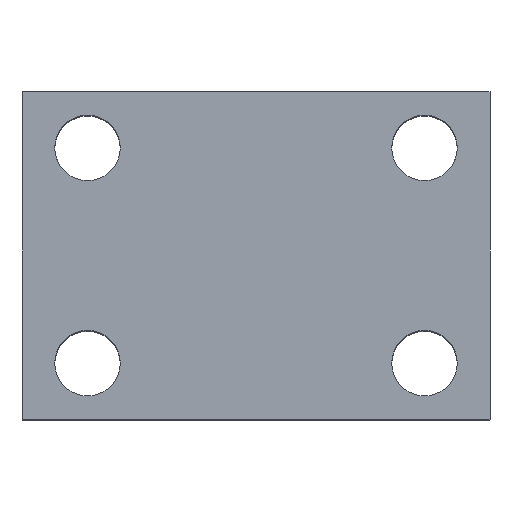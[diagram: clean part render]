
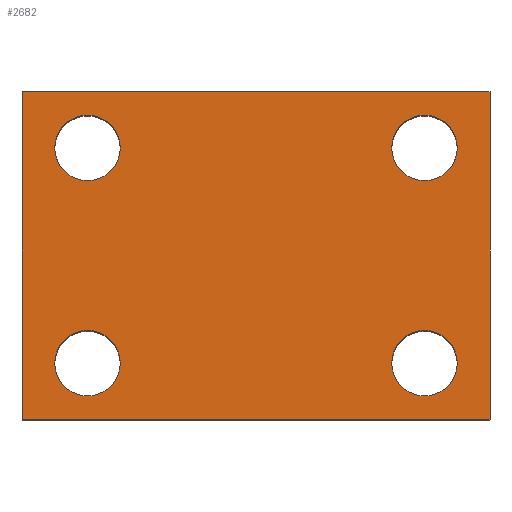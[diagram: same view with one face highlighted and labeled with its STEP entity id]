
A CAD part, top view. The second image highlights one B-rep face of the part: STEP entity #2682.
In plain terms, the highlighted planar face has unit normal (0, 0, 1).
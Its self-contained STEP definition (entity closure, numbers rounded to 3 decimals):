
#160 = DIRECTION ( 'NONE',  ( -1., 0., 0. ) ) ;
#172 = CARTESIAN_POINT ( 'NONE',  ( -25., 35., 40. ) ) ;
#194 = DIRECTION ( 'NONE',  ( 0., -1., 0. ) ) ;
#248 = CIRCLE ( 'NONE', #14697, 3.5 ) ;
#256 = CARTESIAN_POINT ( 'NONE',  ( -18., 29., 40. ) ) ;
#310 = EDGE_CURVE ( 'NONE', #5971, #6671, #14601, .T. ) ;
#576 = VERTEX_POINT ( 'NONE', #13265 ) ;
#689 = DIRECTION ( 'NONE',  ( 0., 0., -1. ) ) ;
#774 = VERTEX_POINT ( 'NONE', #4206 ) ;
#867 = ORIENTED_EDGE ( 'NONE', *, *, #14074, .T. ) ;
#970 = EDGE_LOOP ( 'NONE', ( #7733, #7612 ) ) ;
#1034 = CIRCLE ( 'NONE', #5547, 3.5 ) ;
#1449 = EDGE_CURVE ( 'NONE', #5087, #8714, #248, .T. ) ;
#1507 = VERTEX_POINT ( 'NONE', #1746 ) ;
#1658 = DIRECTION ( 'NONE',  ( 0., 0., -1. ) ) ;
#1746 = CARTESIAN_POINT ( 'NONE',  ( -14.5, 6., 40. ) ) ;
#1844 = AXIS2_PLACEMENT_3D ( 'NONE', #10779, #2836, #12071 ) ;
#2193 = CARTESIAN_POINT ( 'NONE',  ( -18., 29., 40. ) ) ;
#2311 = ORIENTED_EDGE ( 'NONE', *, *, #2619, .F. ) ;
#2519 = CARTESIAN_POINT ( 'NONE',  ( -25., 35., 40. ) ) ;
#2619 = EDGE_CURVE ( 'NONE', #14700, #774, #13308, .T. ) ;
#2682 = ADVANCED_FACE ( 'NONE', ( #15953, #12086, #5668, #8597, #5228 ), #13662, .F. ) ;
#2692 = AXIS2_PLACEMENT_3D ( 'NONE', #15396, #7606, #16682 ) ;
#2836 = DIRECTION ( 'NONE',  ( 0., 0., -1. ) ) ;
#2847 = CARTESIAN_POINT ( 'NONE',  ( -18., 6., 40. ) ) ;
#2997 = AXIS2_PLACEMENT_3D ( 'NONE', #9739, #1658, #11046 ) ;
#3123 = DIRECTION ( 'NONE',  ( 0., -1., 0. ) ) ;
#3655 = DIRECTION ( 'NONE',  ( -1., 0., 0. ) ) ;
#3772 = CARTESIAN_POINT ( 'NONE',  ( 21.5, 29., 40. ) ) ;
#3785 = EDGE_LOOP ( 'NONE', ( #10661, #867 ) ) ;
#3864 = DIRECTION ( 'NONE',  ( 0., 0., -1. ) ) ;
#4206 = CARTESIAN_POINT ( 'NONE',  ( 25., 0., 40. ) ) ;
#4280 = DIRECTION ( 'NONE',  ( -1., 0., 0. ) ) ;
#4327 = VECTOR ( 'NONE', #5447, 1000. ) ;
#4620 = CARTESIAN_POINT ( 'NONE',  ( -25., 35., 40. ) ) ;
#4671 = EDGE_CURVE ( 'NONE', #1507, #13523, #5862, .T. ) ;
#4904 = ORIENTED_EDGE ( 'NONE', *, *, #4671, .T. ) ;
#5017 = AXIS2_PLACEMENT_3D ( 'NONE', #4620, #13724, #6004 ) ;
#5068 = AXIS2_PLACEMENT_3D ( 'NONE', #2193, #11514, #3655 ) ;
#5087 = VERTEX_POINT ( 'NONE', #5877 ) ;
#5169 = CIRCLE ( 'NONE', #8576, 3.5 ) ;
#5228 = FACE_OUTER_BOUND ( 'NONE', #10610, .T. ) ;
#5341 = EDGE_CURVE ( 'NONE', #15858, #8186, #7419, .T. ) ;
#5447 = DIRECTION ( 'NONE',  ( 1., 0., 0. ) ) ;
#5547 = AXIS2_PLACEMENT_3D ( 'NONE', #2847, #12078, #4280 ) ;
#5668 = FACE_BOUND ( 'NONE', #970, .T. ) ;
#5729 = CARTESIAN_POINT ( 'NONE',  ( 18., 6., 40. ) ) ;
#5862 = CIRCLE ( 'NONE', #2997, 3.5 ) ;
#5877 = CARTESIAN_POINT ( 'NONE',  ( -21.5, 29., 40. ) ) ;
#5890 = EDGE_LOOP ( 'NONE', ( #16528, #16127 ) ) ;
#5971 = VERTEX_POINT ( 'NONE', #11042 ) ;
#6004 = DIRECTION ( 'NONE',  ( -1., 0., 0. ) ) ;
#6062 = VECTOR ( 'NONE', #3123, 1000. ) ;
#6671 = VERTEX_POINT ( 'NONE', #15279 ) ;
#6994 = DIRECTION ( 'NONE',  ( -1., 0., 0. ) ) ;
#7092 = CIRCLE ( 'NONE', #1844, 3.5 ) ;
#7115 = CARTESIAN_POINT ( 'NONE',  ( 14.5, 29., 40. ) ) ;
#7419 = CIRCLE ( 'NONE', #8021, 3.5 ) ;
#7606 = DIRECTION ( 'NONE',  ( 0., 0., -1. ) ) ;
#7612 = ORIENTED_EDGE ( 'NONE', *, *, #17032, .T. ) ;
#7733 = ORIENTED_EDGE ( 'NONE', *, *, #10618, .T. ) ;
#7905 = CARTESIAN_POINT ( 'NONE',  ( -21.5, 6., 40. ) ) ;
#8021 = AXIS2_PLACEMENT_3D ( 'NONE', #11702, #3864, #12986 ) ;
#8186 = VERTEX_POINT ( 'NONE', #3772 ) ;
#8576 = AXIS2_PLACEMENT_3D ( 'NONE', #5729, #14776, #6994 ) ;
#8597 = FACE_BOUND ( 'NONE', #3785, .T. ) ;
#8714 = VERTEX_POINT ( 'NONE', #15966 ) ;
#8769 = CARTESIAN_POINT ( 'NONE',  ( -25., 0., 40. ) ) ;
#8947 = EDGE_CURVE ( 'NONE', #5971, #14700, #14745, .T. ) ;
#9731 = CARTESIAN_POINT ( 'NONE',  ( 25., 35., 40. ) ) ;
#9739 = CARTESIAN_POINT ( 'NONE',  ( -18., 6., 40. ) ) ;
#10472 = CARTESIAN_POINT ( 'NONE',  ( 14.5, 6., 40. ) ) ;
#10610 = EDGE_LOOP ( 'NONE', ( #12871, #2311, #17331, #14336 ) ) ;
#10618 = EDGE_CURVE ( 'NONE', #12675, #576, #5169, .T. ) ;
#10661 = ORIENTED_EDGE ( 'NONE', *, *, #5341, .T. ) ;
#10779 = CARTESIAN_POINT ( 'NONE',  ( 18., 6., 40. ) ) ;
#11042 = CARTESIAN_POINT ( 'NONE',  ( -25., 35., 40. ) ) ;
#11046 = DIRECTION ( 'NONE',  ( -1., 0., 0. ) ) ;
#11118 = VECTOR ( 'NONE', #194, 1000. ) ;
#11394 = CIRCLE ( 'NONE', #5068, 3.5 ) ;
#11514 = DIRECTION ( 'NONE',  ( 0., 0., -1. ) ) ;
#11610 = EDGE_CURVE ( 'NONE', #6671, #774, #15893, .T. ) ;
#11702 = CARTESIAN_POINT ( 'NONE',  ( 18., 29., 40. ) ) ;
#12071 = DIRECTION ( 'NONE',  ( -1., 0., 0. ) ) ;
#12078 = DIRECTION ( 'NONE',  ( 0., 0., -1. ) ) ;
#12086 = FACE_BOUND ( 'NONE', #14714, .T. ) ;
#12241 = EDGE_CURVE ( 'NONE', #8714, #5087, #11394, .T. ) ;
#12406 = VECTOR ( 'NONE', #12702, 1000. ) ;
#12675 = VERTEX_POINT ( 'NONE', #10472 ) ;
#12702 = DIRECTION ( 'NONE',  ( 1., 0., 0. ) ) ;
#12871 = ORIENTED_EDGE ( 'NONE', *, *, #11610, .T. ) ;
#12986 = DIRECTION ( 'NONE',  ( -1., 0., 0. ) ) ;
#13265 = CARTESIAN_POINT ( 'NONE',  ( 21.5, 6., 40. ) ) ;
#13308 = LINE ( 'NONE', #9731, #6062 ) ;
#13523 = VERTEX_POINT ( 'NONE', #7905 ) ;
#13662 = PLANE ( 'NONE',  #5017 ) ;
#13724 = DIRECTION ( 'NONE',  ( 0., 0., -1. ) ) ;
#14074 = EDGE_CURVE ( 'NONE', #8186, #15858, #14857, .T. ) ;
#14231 = EDGE_CURVE ( 'NONE', #13523, #1507, #1034, .T. ) ;
#14336 = ORIENTED_EDGE ( 'NONE', *, *, #310, .T. ) ;
#14601 = LINE ( 'NONE', #172, #11118 ) ;
#14697 = AXIS2_PLACEMENT_3D ( 'NONE', #256, #689, #160 ) ;
#14700 = VERTEX_POINT ( 'NONE', #15701 ) ;
#14714 = EDGE_LOOP ( 'NONE', ( #17393, #4904 ) ) ;
#14745 = LINE ( 'NONE', #2519, #4327 ) ;
#14776 = DIRECTION ( 'NONE',  ( 0., 0., -1. ) ) ;
#14857 = CIRCLE ( 'NONE', #2692, 3.5 ) ;
#15279 = CARTESIAN_POINT ( 'NONE',  ( -25., 0., 40. ) ) ;
#15396 = CARTESIAN_POINT ( 'NONE',  ( 18., 29., 40. ) ) ;
#15701 = CARTESIAN_POINT ( 'NONE',  ( 25., 35., 40. ) ) ;
#15858 = VERTEX_POINT ( 'NONE', #7115 ) ;
#15893 = LINE ( 'NONE', #8769, #12406 ) ;
#15953 = FACE_BOUND ( 'NONE', #5890, .T. ) ;
#15966 = CARTESIAN_POINT ( 'NONE',  ( -14.5, 29., 40. ) ) ;
#16127 = ORIENTED_EDGE ( 'NONE', *, *, #12241, .T. ) ;
#16528 = ORIENTED_EDGE ( 'NONE', *, *, #1449, .T. ) ;
#16682 = DIRECTION ( 'NONE',  ( -1., 0., 0. ) ) ;
#17032 = EDGE_CURVE ( 'NONE', #576, #12675, #7092, .T. ) ;
#17331 = ORIENTED_EDGE ( 'NONE', *, *, #8947, .F. ) ;
#17393 = ORIENTED_EDGE ( 'NONE', *, *, #14231, .T. ) ;
